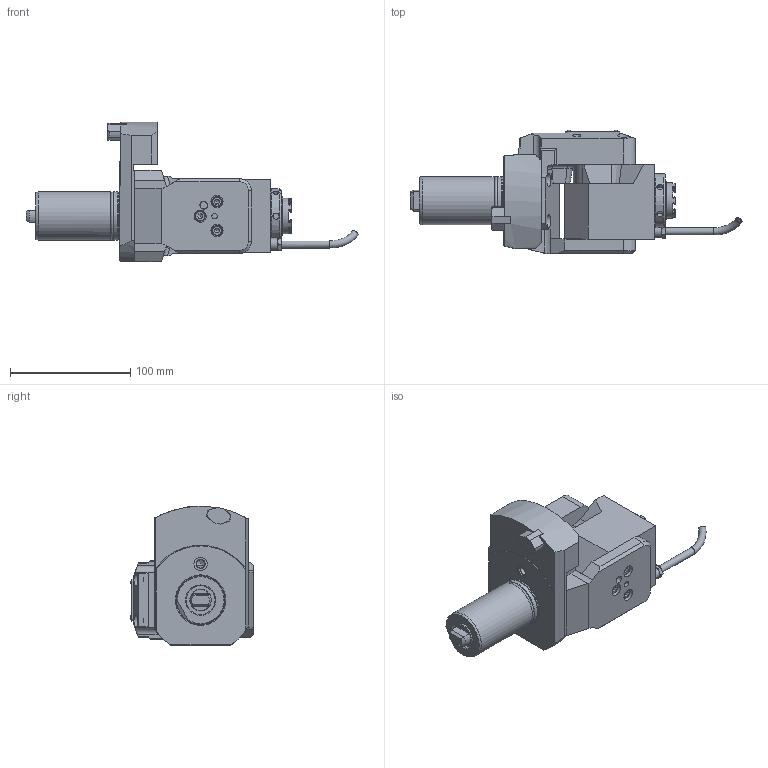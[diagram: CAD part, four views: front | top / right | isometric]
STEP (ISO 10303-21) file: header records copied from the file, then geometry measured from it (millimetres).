
FILE_DESCRIPTION(/* description */ (''),/* implementation_level */ '2;1');
FILE_NAME(/* name */ '191269',/* time_stamp */ '2020-03-03T13:10:26+01:00',/* author */ (''),/* organization */ (''),/* preprocessor_version */ 'ST-DEVELOPER v16.5',/* originating_system */ 'HiCAD 2017 2201.0 Build 268',/* authorisation */ '');
FILE_SCHEMA (('AUTOMOTIVE_DESIGN { 1 0 10303 214 1 1 1 1 }'));
Products named in the file (8): Root; Teil; ABCDEFGHIJKLMNOPQRSTUVWXYZ[\]^_`ABCDEFGHIJKLMNOP뻠瓋Ȅ; DIN 13-M10x1; DIN 76-M6; 0°
Assembly tree (7 placements, depth 3):
  Root
    Teil
      ABCDEFGHIJKLMNOPQRSTUVWXYZ[\]^_`ABCDEFGHIJKLMNOP뻠瓋Ȅ
      ABCDEFGHIJKLMNOPQRSTUVWXYZ[\]^_`ABCDEFGHIJKLMNOP뻠瓋Ȅ
      DIN 13-M10x1
      DIN 76-M6
      DIN 76-M6
      0°
Bounding box: 275.54 x 102.3 x 116 mm (x, y, z)
Volume: 790534.7 mm3; surface area: 108364.1 mm2
Topology: 10 solids, 28 shells, 1020 faces, 2561 edges, 1674 vertices
Faces by surface type: plane 631, cylinder 257, cone 48, bspline 44, torus 35, sphere 5
Full cylindrical faces by diameter (mm): 2 x4, 2.2 x4, 3 x1, 4 x1, 4.5 x1, 4.773 x10, 5 x4, 5.1 x6, 5.5 x7, 6 x17, 6.1 x1, 6.25 x1, 6.5 x3, 6.6 x4, 6.8 x2, 7.65 x1, 8 x1, 8.5 x7, 8.773 x2, 8.92 x1, 9 x1, 10 x15, 11 x4, 11.01 x1, 11.1 x1, 18 x1, 18.2 x1, 19 x1, 21 x2, 23.4 x1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
Entity records: 68216 total; most frequent: CARTESIAN_POINT 19069, PRESENTATION_STYLE_ASSIGNMENT 5069, OVER_RIDING_STYLED_ITEM 5063, DIRECTION 4656, COLOUR_RGB 4576, DRAUGHTING_PRE_DEFINED_CURVE_FONT 4572, CURVE_STYLE 4572, ORIENTED_EDGE 4572
